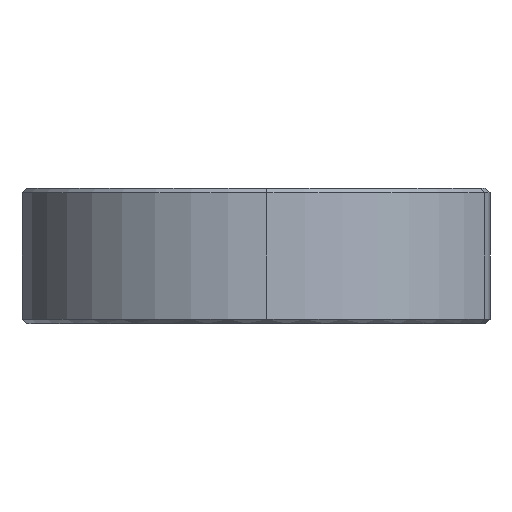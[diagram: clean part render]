
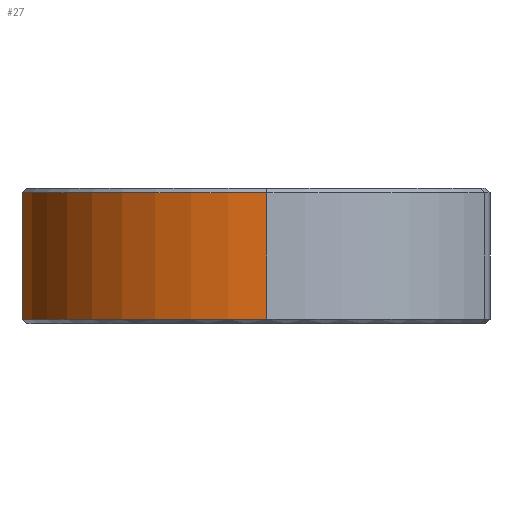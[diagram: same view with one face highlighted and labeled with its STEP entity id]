
A CAD part, left-side view. The second image highlights one B-rep face of the part: STEP entity #27.
In plain terms, the highlighted cylindrical face has radius 11 mm (diameter 22 mm), a partial arc.
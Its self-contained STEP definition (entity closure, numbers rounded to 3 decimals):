
#24 = ORIENTED_EDGE ( 'NONE', *, *, #630, .T. ) ;
#27 = ADVANCED_FACE ( 'NONE', ( #1426 ), #820, .T. ) ;
#63 = CARTESIAN_POINT ( 'NONE',  ( -5.042, 2.162, -2.12 ) ) ;
#94 = CIRCLE ( 'NONE', #545, 11. ) ;
#133 = VERTEX_POINT ( 'NONE', #788 ) ;
#365 = CARTESIAN_POINT ( 'NONE',  ( 5.958, 2.162, -7.92 ) ) ;
#398 = CARTESIAN_POINT ( 'NONE',  ( -5.042, 2.162, -2.32 ) ) ;
#402 = AXIS2_PLACEMENT_3D ( 'NONE', #578, #1193, #1074 ) ;
#403 = VECTOR ( 'NONE', #1038, 1000. ) ;
#410 = DIRECTION ( 'NONE',  ( 0., 0., -1. ) ) ;
#425 = EDGE_CURVE ( 'NONE', #717, #133, #785, .T. ) ;
#545 = AXIS2_PLACEMENT_3D ( 'NONE', #365, #1365, #1454 ) ;
#578 = CARTESIAN_POINT ( 'NONE',  ( 5.958, 2.162, -2.32 ) ) ;
#630 = EDGE_CURVE ( 'NONE', #1250, #717, #822, .T. ) ;
#638 = VERTEX_POINT ( 'NONE', #718 ) ;
#669 = CARTESIAN_POINT ( 'NONE',  ( 4.148, 13.012, -2.12 ) ) ;
#687 = EDGE_LOOP ( 'NONE', ( #1495, #24, #948, #1073 ) ) ;
#717 = VERTEX_POINT ( 'NONE', #871 ) ;
#718 = CARTESIAN_POINT ( 'NONE',  ( -5.042, 2.162, -7.92 ) ) ;
#766 = EDGE_CURVE ( 'NONE', #133, #638, #94, .T. ) ;
#785 = LINE ( 'NONE', #669, #851 ) ;
#788 = CARTESIAN_POINT ( 'NONE',  ( 4.148, 13.012, -7.92 ) ) ;
#820 = CYLINDRICAL_SURFACE ( 'NONE', #973, 11. ) ;
#822 = CIRCLE ( 'NONE', #402, 11. ) ;
#840 = DIRECTION ( 'NONE',  ( 0., 0., -1. ) ) ;
#851 = VECTOR ( 'NONE', #410, 1000. ) ;
#871 = CARTESIAN_POINT ( 'NONE',  ( 4.148, 13.012, -2.32 ) ) ;
#948 = ORIENTED_EDGE ( 'NONE', *, *, #425, .T. ) ;
#959 = DIRECTION ( 'NONE',  ( -1., 0., 0. ) ) ;
#973 = AXIS2_PLACEMENT_3D ( 'NONE', #1442, #840, #959 ) ;
#1038 = DIRECTION ( 'NONE',  ( 0., 0., -1. ) ) ;
#1073 = ORIENTED_EDGE ( 'NONE', *, *, #766, .T. ) ;
#1074 = DIRECTION ( 'NONE',  ( 1., 0., 0. ) ) ;
#1096 = LINE ( 'NONE', #63, #403 ) ;
#1193 = DIRECTION ( 'NONE',  ( 0., 0., -1. ) ) ;
#1250 = VERTEX_POINT ( 'NONE', #398 ) ;
#1265 = EDGE_CURVE ( 'NONE', #1250, #638, #1096, .T. ) ;
#1365 = DIRECTION ( 'NONE',  ( 0., 0., 1. ) ) ;
#1426 = FACE_OUTER_BOUND ( 'NONE', #687, .T. ) ;
#1442 = CARTESIAN_POINT ( 'NONE',  ( 5.958, 2.162, -2.12 ) ) ;
#1454 = DIRECTION ( 'NONE',  ( 1., 0., 0. ) ) ;
#1495 = ORIENTED_EDGE ( 'NONE', *, *, #1265, .F. ) ;
